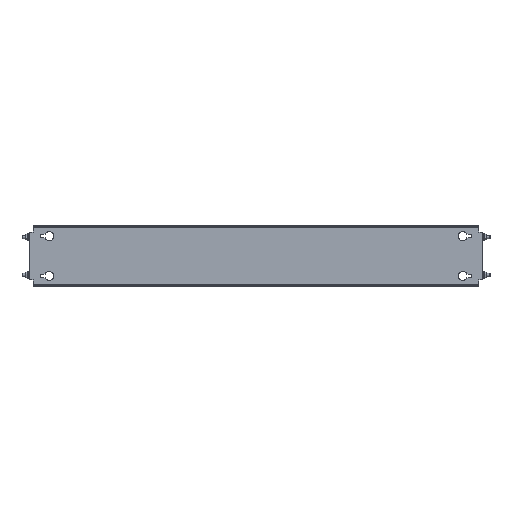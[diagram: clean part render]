
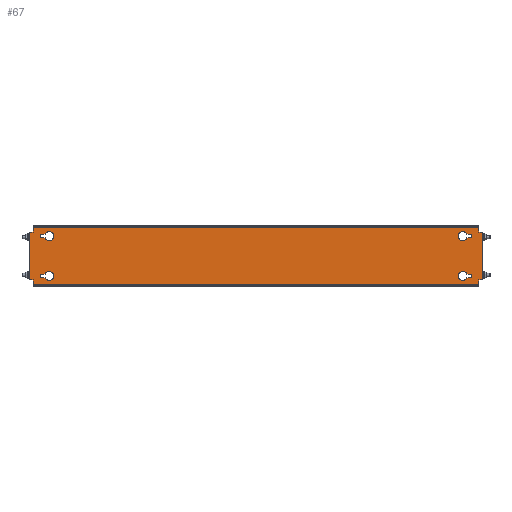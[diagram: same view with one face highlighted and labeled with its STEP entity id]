
A CAD part, top view. The second image highlights one B-rep face of the part: STEP entity #67.
In plain terms, the highlighted planar face has unit normal (0, 0, 1).
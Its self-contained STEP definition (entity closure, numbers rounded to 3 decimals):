
#67 = ADVANCED_FACE('',(#68,#103,#138,#300,#335),#370,.T.);
#68 = FACE_BOUND('',#69,.T.);
#69 = EDGE_LOOP('',(#70,#80,#88,#96));
#70 = ORIENTED_EDGE('',*,*,#71,.T.);
#71 = EDGE_CURVE('',#72,#74,#76,.T.);
#72 = VERTEX_POINT('',#73);
#73 = CARTESIAN_POINT('',(418.393,42.75,2.));
#74 = VERTEX_POINT('',#75);
#75 = CARTESIAN_POINT('',(428.,42.75,2.));
#76 = LINE('',#77,#78);
#77 = CARTESIAN_POINT('',(427.,42.75,2.));
#78 = VECTOR('',#79,1.);
#79 = DIRECTION('',(1.,0.,0.));
#80 = ORIENTED_EDGE('',*,*,#81,.T.);
#81 = EDGE_CURVE('',#74,#82,#84,.T.);
#82 = VERTEX_POINT('',#83);
#83 = CARTESIAN_POINT('',(428.,36.25,2.));
#84 = LINE('',#85,#86);
#85 = CARTESIAN_POINT('',(428.,42.75,2.));
#86 = VECTOR('',#87,1.);
#87 = DIRECTION('',(0.,-1.,0.));
#88 = ORIENTED_EDGE('',*,*,#89,.T.);
#89 = EDGE_CURVE('',#82,#90,#92,.T.);
#90 = VERTEX_POINT('',#91);
#91 = CARTESIAN_POINT('',(418.393,36.25,2.));
#92 = LINE('',#93,#94);
#93 = CARTESIAN_POINT('',(427.,36.25,2.));
#94 = VECTOR('',#95,1.);
#95 = DIRECTION('',(-1.,0.,0.));
#96 = ORIENTED_EDGE('',*,*,#97,.T.);
#97 = EDGE_CURVE('',#90,#72,#98,.T.);
#98 = CIRCLE('',#99,9.);
#99 = AXIS2_PLACEMENT_3D('',#100,#101,#102);
#100 = CARTESIAN_POINT('',(410.,39.5,2.));
#101 = DIRECTION('',(0.,0.,-1.));
#102 = DIRECTION('',(1.,0.,0.));
#103 = FACE_BOUND('',#104,.T.);
#104 = EDGE_LOOP('',(#105,#115,#123,#131));
#105 = ORIENTED_EDGE('',*,*,#106,.T.);
#106 = EDGE_CURVE('',#107,#109,#111,.T.);
#107 = VERTEX_POINT('',#108);
#108 = CARTESIAN_POINT('',(-418.393,-42.75,2.));
#109 = VERTEX_POINT('',#110);
#110 = CARTESIAN_POINT('',(-428.,-42.75,2.));
#111 = LINE('',#112,#113);
#112 = CARTESIAN_POINT('',(-427.,-42.75,2.));
#113 = VECTOR('',#114,1.);
#114 = DIRECTION('',(-1.,0.,0.));
#115 = ORIENTED_EDGE('',*,*,#116,.T.);
#116 = EDGE_CURVE('',#109,#117,#119,.T.);
#117 = VERTEX_POINT('',#118);
#118 = CARTESIAN_POINT('',(-428.,-36.25,2.));
#119 = LINE('',#120,#121);
#120 = CARTESIAN_POINT('',(-428.,-42.75,2.));
#121 = VECTOR('',#122,1.);
#122 = DIRECTION('',(0.,1.,0.));
#123 = ORIENTED_EDGE('',*,*,#124,.T.);
#124 = EDGE_CURVE('',#117,#125,#127,.T.);
#125 = VERTEX_POINT('',#126);
#126 = CARTESIAN_POINT('',(-418.393,-36.25,2.));
#127 = LINE('',#128,#129);
#128 = CARTESIAN_POINT('',(-427.,-36.25,2.));
#129 = VECTOR('',#130,1.);
#130 = DIRECTION('',(1.,-0.,-0.));
#131 = ORIENTED_EDGE('',*,*,#132,.T.);
#132 = EDGE_CURVE('',#125,#107,#133,.T.);
#133 = CIRCLE('',#134,9.);
#134 = AXIS2_PLACEMENT_3D('',#135,#136,#137);
#135 = CARTESIAN_POINT('',(-410.,-39.5,2.));
#136 = DIRECTION('',(0.,0.,-1.));
#137 = DIRECTION('',(-1.,0.,0.));
#138 = FACE_BOUND('',#139,.T.);
#139 = EDGE_LOOP('',(#140,#150,#158,#166,#174,#182,#190,#198,#206,#214,
    #222,#230,#238,#246,#254,#262,#270,#278,#286,#294));
#140 = ORIENTED_EDGE('',*,*,#141,.F.);
#141 = EDGE_CURVE('',#142,#144,#146,.T.);
#142 = VERTEX_POINT('',#143);
#143 = CARTESIAN_POINT('',(-447.4,47.5,2.));
#144 = VERTEX_POINT('',#145);
#145 = CARTESIAN_POINT('',(-442.,47.5,2.));
#146 = LINE('',#147,#148);
#147 = CARTESIAN_POINT('',(-448.,47.5,2.));
#148 = VECTOR('',#149,1.);
#149 = DIRECTION('',(1.,0.,-0.));
#150 = ORIENTED_EDGE('',*,*,#151,.T.);
#151 = EDGE_CURVE('',#142,#152,#154,.T.);
#152 = VERTEX_POINT('',#153);
#153 = CARTESIAN_POINT('',(-450.,47.5,2.));
#154 = LINE('',#155,#156);
#155 = CARTESIAN_POINT('',(-447.4,47.5,2.));
#156 = VECTOR('',#157,1.);
#157 = DIRECTION('',(-1.,0.,0.));
#158 = ORIENTED_EDGE('',*,*,#159,.F.);
#159 = EDGE_CURVE('',#160,#152,#162,.T.);
#160 = VERTEX_POINT('',#161);
#161 = CARTESIAN_POINT('',(-450.,-47.5,2.));
#162 = LINE('',#163,#164);
#163 = CARTESIAN_POINT('',(-450.,-57.5,2.));
#164 = VECTOR('',#165,1.);
#165 = DIRECTION('',(-0.,1.,-0.));
#166 = ORIENTED_EDGE('',*,*,#167,.F.);
#167 = EDGE_CURVE('',#168,#160,#170,.T.);
#168 = VERTEX_POINT('',#169);
#169 = CARTESIAN_POINT('',(-447.4,-47.5,2.));
#170 = LINE('',#171,#172);
#171 = CARTESIAN_POINT('',(-442.,-47.5,2.));
#172 = VECTOR('',#173,1.);
#173 = DIRECTION('',(-1.,-0.,-0.));
#174 = ORIENTED_EDGE('',*,*,#175,.T.);
#175 = EDGE_CURVE('',#168,#176,#178,.T.);
#176 = VERTEX_POINT('',#177);
#177 = CARTESIAN_POINT('',(-442.,-47.5,2.));
#178 = LINE('',#179,#180);
#179 = CARTESIAN_POINT('',(-448.,-47.5,2.));
#180 = VECTOR('',#181,1.);
#181 = DIRECTION('',(1.,0.,-0.));
#182 = ORIENTED_EDGE('',*,*,#183,.T.);
#183 = EDGE_CURVE('',#176,#184,#186,.T.);
#184 = VERTEX_POINT('',#185);
#185 = CARTESIAN_POINT('',(-442.,-56.9,2.));
#186 = LINE('',#187,#188);
#187 = CARTESIAN_POINT('',(-442.,57.5,2.));
#188 = VECTOR('',#189,1.);
#189 = DIRECTION('',(0.,-1.,0.));
#190 = ORIENTED_EDGE('',*,*,#191,.T.);
#191 = EDGE_CURVE('',#184,#192,#194,.T.);
#192 = VERTEX_POINT('',#193);
#193 = CARTESIAN_POINT('',(-442.,-57.5,2.));
#194 = LINE('',#195,#196);
#195 = CARTESIAN_POINT('',(-442.,-56.9,2.));
#196 = VECTOR('',#197,1.);
#197 = DIRECTION('',(-0.,-1.,-0.));
#198 = ORIENTED_EDGE('',*,*,#199,.T.);
#199 = EDGE_CURVE('',#192,#200,#202,.T.);
#200 = VERTEX_POINT('',#201);
#201 = CARTESIAN_POINT('',(442.,-57.5,2.));
#202 = LINE('',#203,#204);
#203 = CARTESIAN_POINT('',(442.,-57.5,2.));
#204 = VECTOR('',#205,1.);
#205 = DIRECTION('',(1.,0.,0.));
#206 = ORIENTED_EDGE('',*,*,#207,.F.);
#207 = EDGE_CURVE('',#208,#200,#210,.T.);
#208 = VERTEX_POINT('',#209);
#209 = CARTESIAN_POINT('',(442.,-56.9,2.));
#210 = LINE('',#211,#212);
#211 = CARTESIAN_POINT('',(442.,-57.5,2.));
#212 = VECTOR('',#213,1.);
#213 = DIRECTION('',(0.,-1.,0.));
#214 = ORIENTED_EDGE('',*,*,#215,.T.);
#215 = EDGE_CURVE('',#208,#216,#218,.T.);
#216 = VERTEX_POINT('',#217);
#217 = CARTESIAN_POINT('',(442.,-47.5,2.));
#218 = LINE('',#219,#220);
#219 = CARTESIAN_POINT('',(442.,57.5,2.));
#220 = VECTOR('',#221,1.);
#221 = DIRECTION('',(0.,1.,-0.));
#222 = ORIENTED_EDGE('',*,*,#223,.F.);
#223 = EDGE_CURVE('',#224,#216,#226,.T.);
#224 = VERTEX_POINT('',#225);
#225 = CARTESIAN_POINT('',(447.4,-47.5,2.));
#226 = LINE('',#227,#228);
#227 = CARTESIAN_POINT('',(448.,-47.5,2.));
#228 = VECTOR('',#229,1.);
#229 = DIRECTION('',(-1.,0.,-0.));
#230 = ORIENTED_EDGE('',*,*,#231,.T.);
#231 = EDGE_CURVE('',#224,#232,#234,.T.);
#232 = VERTEX_POINT('',#233);
#233 = CARTESIAN_POINT('',(450.,-47.5,2.));
#234 = LINE('',#235,#236);
#235 = CARTESIAN_POINT('',(447.4,-47.5,2.));
#236 = VECTOR('',#237,1.);
#237 = DIRECTION('',(1.,-0.,0.));
#238 = ORIENTED_EDGE('',*,*,#239,.F.);
#239 = EDGE_CURVE('',#240,#232,#242,.T.);
#240 = VERTEX_POINT('',#241);
#241 = CARTESIAN_POINT('',(450.,47.5,2.));
#242 = LINE('',#243,#244);
#243 = CARTESIAN_POINT('',(450.,-57.5,2.));
#244 = VECTOR('',#245,1.);
#245 = DIRECTION('',(-0.,-1.,0.));
#246 = ORIENTED_EDGE('',*,*,#247,.F.);
#247 = EDGE_CURVE('',#248,#240,#250,.T.);
#248 = VERTEX_POINT('',#249);
#249 = CARTESIAN_POINT('',(447.4,47.5,2.));
#250 = LINE('',#251,#252);
#251 = CARTESIAN_POINT('',(-442.,47.5,2.));
#252 = VECTOR('',#253,1.);
#253 = DIRECTION('',(1.,-0.,0.));
#254 = ORIENTED_EDGE('',*,*,#255,.T.);
#255 = EDGE_CURVE('',#248,#256,#258,.T.);
#256 = VERTEX_POINT('',#257);
#257 = CARTESIAN_POINT('',(442.,47.5,2.));
#258 = LINE('',#259,#260);
#259 = CARTESIAN_POINT('',(448.,47.5,2.));
#260 = VECTOR('',#261,1.);
#261 = DIRECTION('',(-1.,0.,-0.));
#262 = ORIENTED_EDGE('',*,*,#263,.T.);
#263 = EDGE_CURVE('',#256,#264,#266,.T.);
#264 = VERTEX_POINT('',#265);
#265 = CARTESIAN_POINT('',(442.,56.9,2.));
#266 = LINE('',#267,#268);
#267 = CARTESIAN_POINT('',(442.,57.5,2.));
#268 = VECTOR('',#269,1.);
#269 = DIRECTION('',(0.,1.,-0.));
#270 = ORIENTED_EDGE('',*,*,#271,.T.);
#271 = EDGE_CURVE('',#264,#272,#274,.T.);
#272 = VERTEX_POINT('',#273);
#273 = CARTESIAN_POINT('',(442.,57.5,2.));
#274 = LINE('',#275,#276);
#275 = CARTESIAN_POINT('',(442.,56.9,2.));
#276 = VECTOR('',#277,1.);
#277 = DIRECTION('',(-0.,1.,-0.));
#278 = ORIENTED_EDGE('',*,*,#279,.T.);
#279 = EDGE_CURVE('',#272,#280,#282,.T.);
#280 = VERTEX_POINT('',#281);
#281 = CARTESIAN_POINT('',(-442.,57.5,2.));
#282 = LINE('',#283,#284);
#283 = CARTESIAN_POINT('',(-442.,57.5,2.));
#284 = VECTOR('',#285,1.);
#285 = DIRECTION('',(-1.,0.,0.));
#286 = ORIENTED_EDGE('',*,*,#287,.F.);
#287 = EDGE_CURVE('',#288,#280,#290,.T.);
#288 = VERTEX_POINT('',#289);
#289 = CARTESIAN_POINT('',(-442.,56.9,2.));
#290 = LINE('',#291,#292);
#291 = CARTESIAN_POINT('',(-442.,-57.5,2.));
#292 = VECTOR('',#293,1.);
#293 = DIRECTION('',(0.,1.,-0.));
#294 = ORIENTED_EDGE('',*,*,#295,.T.);
#295 = EDGE_CURVE('',#288,#144,#296,.T.);
#296 = LINE('',#297,#298);
#297 = CARTESIAN_POINT('',(-442.,57.5,2.));
#298 = VECTOR('',#299,1.);
#299 = DIRECTION('',(0.,-1.,0.));
#300 = FACE_BOUND('',#301,.T.);
#301 = EDGE_LOOP('',(#302,#312,#320,#328));
#302 = ORIENTED_EDGE('',*,*,#303,.F.);
#303 = EDGE_CURVE('',#304,#306,#308,.T.);
#304 = VERTEX_POINT('',#305);
#305 = CARTESIAN_POINT('',(428.,-36.25,2.));
#306 = VERTEX_POINT('',#307);
#307 = CARTESIAN_POINT('',(418.393,-36.25,2.));
#308 = LINE('',#309,#310);
#309 = CARTESIAN_POINT('',(418.393,-36.25,2.));
#310 = VECTOR('',#311,1.);
#311 = DIRECTION('',(-1.,0.,0.));
#312 = ORIENTED_EDGE('',*,*,#313,.F.);
#313 = EDGE_CURVE('',#314,#304,#316,.T.);
#314 = VERTEX_POINT('',#315);
#315 = CARTESIAN_POINT('',(428.,-42.75,2.));
#316 = LINE('',#317,#318);
#317 = CARTESIAN_POINT('',(428.,-36.25,2.));
#318 = VECTOR('',#319,1.);
#319 = DIRECTION('',(0.,1.,0.));
#320 = ORIENTED_EDGE('',*,*,#321,.F.);
#321 = EDGE_CURVE('',#322,#314,#324,.T.);
#322 = VERTEX_POINT('',#323);
#323 = CARTESIAN_POINT('',(418.393,-42.75,2.));
#324 = LINE('',#325,#326);
#325 = CARTESIAN_POINT('',(427.,-42.75,2.));
#326 = VECTOR('',#327,1.);
#327 = DIRECTION('',(1.,0.,0.));
#328 = ORIENTED_EDGE('',*,*,#329,.F.);
#329 = EDGE_CURVE('',#306,#322,#330,.T.);
#330 = CIRCLE('',#331,9.);
#331 = AXIS2_PLACEMENT_3D('',#332,#333,#334);
#332 = CARTESIAN_POINT('',(410.,-39.5,2.));
#333 = DIRECTION('',(0.,-0.,1.));
#334 = DIRECTION('',(1.,0.,0.));
#335 = FACE_BOUND('',#336,.T.);
#336 = EDGE_LOOP('',(#337,#347,#355,#363));
#337 = ORIENTED_EDGE('',*,*,#338,.F.);
#338 = EDGE_CURVE('',#339,#341,#343,.T.);
#339 = VERTEX_POINT('',#340);
#340 = CARTESIAN_POINT('',(-428.,36.25,2.));
#341 = VERTEX_POINT('',#342);
#342 = CARTESIAN_POINT('',(-418.393,36.25,2.));
#343 = LINE('',#344,#345);
#344 = CARTESIAN_POINT('',(-418.393,36.25,2.));
#345 = VECTOR('',#346,1.);
#346 = DIRECTION('',(1.,0.,0.));
#347 = ORIENTED_EDGE('',*,*,#348,.F.);
#348 = EDGE_CURVE('',#349,#339,#351,.T.);
#349 = VERTEX_POINT('',#350);
#350 = CARTESIAN_POINT('',(-428.,42.75,2.));
#351 = LINE('',#352,#353);
#352 = CARTESIAN_POINT('',(-428.,36.25,2.));
#353 = VECTOR('',#354,1.);
#354 = DIRECTION('',(0.,-1.,0.));
#355 = ORIENTED_EDGE('',*,*,#356,.F.);
#356 = EDGE_CURVE('',#357,#349,#359,.T.);
#357 = VERTEX_POINT('',#358);
#358 = CARTESIAN_POINT('',(-418.393,42.75,2.));
#359 = LINE('',#360,#361);
#360 = CARTESIAN_POINT('',(-427.,42.75,2.));
#361 = VECTOR('',#362,1.);
#362 = DIRECTION('',(-1.,0.,0.));
#363 = ORIENTED_EDGE('',*,*,#364,.F.);
#364 = EDGE_CURVE('',#341,#357,#365,.T.);
#365 = CIRCLE('',#366,9.);
#366 = AXIS2_PLACEMENT_3D('',#367,#368,#369);
#367 = CARTESIAN_POINT('',(-410.,39.5,2.));
#368 = DIRECTION('',(0.,-0.,1.));
#369 = DIRECTION('',(-1.,0.,0.));
#370 = PLANE('',#371);
#371 = AXIS2_PLACEMENT_3D('',#372,#373,#374);
#372 = CARTESIAN_POINT('',(-442.,-57.5,2.));
#373 = DIRECTION('',(-0.,0.,1.));
#374 = DIRECTION('',(1.,0.,0.));
